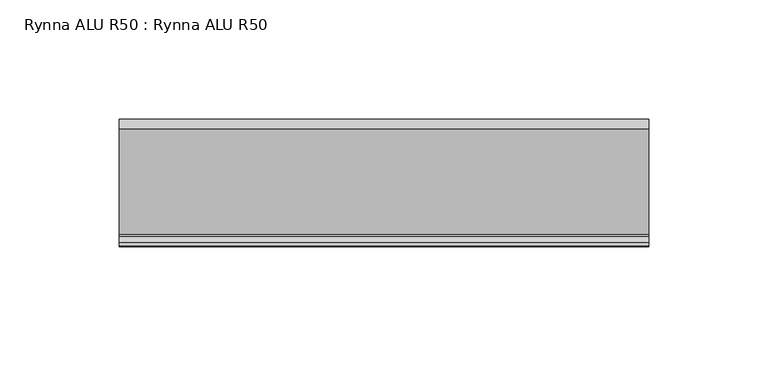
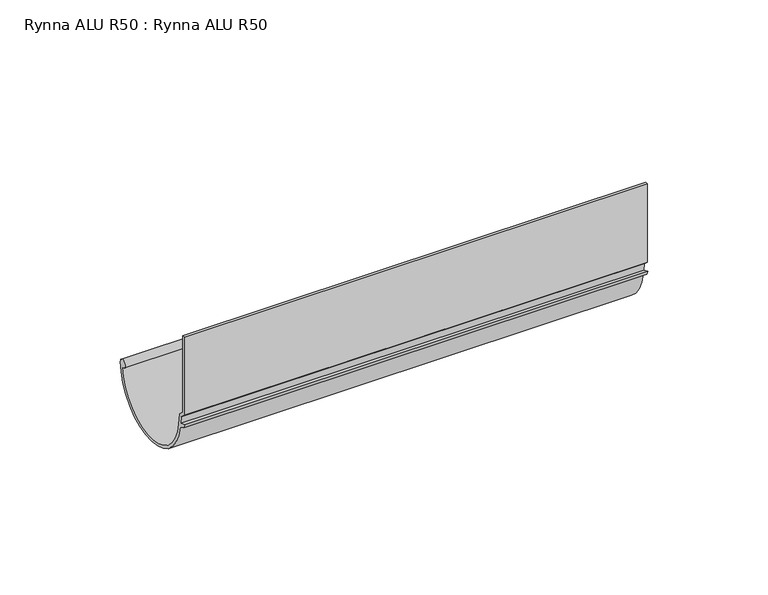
"""IFC4 building model written with IfcOpenShell, lengths in millimetres: proxy geometry, Rynna ALU R50 : Rynna ALU R50."""

from ifc_helpers import new_model, si_unit, point, frame, frame_2d, origin, place, context, project, spatial, polyline, circle_curve, trimmed, segment, composite_curve, outline, extrude, source, transform, mapped, element, save


def rynna_alu_r50_rynna_alu_r50_a3cc24d8(model_context):
    return source(origin(), model_context, "Body", "SweptSolid", [
        extrude(outline(composite_curve([segment(polyline([(-0.6978396, 0.0), (0.7021617, 0.0), (0.7021617, -38.7702547), (3.0707013, -41.065916), (3.9370468, -46.8196069)]), True, "CONTINUOUS"), segment(trimmed(circle_curve(frame_2d((27.3646611, -44.302303)), 23.5624686), [point((3.9370468, -46.8196069))], [point((50.8512717, -46.1914952))], True, "CARTESIAN"), True, "CONTINUOUS"), segment(trimmed(circle_curve(frame_2d((50.3771937, -44.3000011)), 1.95), [point((50.8512717, -46.1914952))], [point((52.3271923, -44.302303))], False, "CARTESIAN"), True, "CONTINUOUS"), segment(trimmed(circle_curve(frame_2d((27.3646611, -44.302303)), 24.9625312), [point((52.3271923, -44.302303))], [point((2.6292486, -47.6619658))], False, "CARTESIAN"), True, "CONTINUOUS"), segment(polyline([(2.6292486, -47.6619658), (-0.1767814, -46.0765907), (-0.9565767, -44.1281649), (2.328284, -45.5225054), (1.8149767, -41.8701356), (-0.6978396, -39.5252625), (-0.6978396, 0.0)]), True, "CONTINUOUS")], self_intersect=False)), frame((-110.8720276, 0.0, 0.0), z_axis=(1.0, 0.0, 0.0), x_axis=(0.0, 1.0, 0.0)), (0.0, 0.0, 1.0), 221.7440552),
    ])


if __name__ == "__main__":
    model = new_model("IFC4")
    model_context = context("Model", 3, world=origin())
    ifc_project = project(units=[si_unit("LENGTHUNIT", "METRE", prefix="MILLI")], contexts=[model_context])
    site = spatial("IfcSite", under=ifc_project)
    building = spatial("IfcBuilding", under=site)
    placement = place(None, origin())
    rynna_alu_r50_rynna_alu_r50_shape = rynna_alu_r50_rynna_alu_r50_a3cc24d8(model_context)
    element("IfcBuildingElementProxy", 1, Name="Rynna ALU R50 : Rynna ALU R50", ObjectType="Rynna ALU R50 : Rynna ALU R50", at=placement, inside=building, context=model_context, shape_type="MappedRepresentation", body=[
        mapped(rynna_alu_r50_rynna_alu_r50_shape, transform((0.0, 0.0, 0.0), x_axis=(1.0, 0.0, 0.0), y_axis=(0.0, 1.0, 0.0), z_axis=(0.0, 0.0, 1.0))),
    ])
    save(model, "model.ifc")
